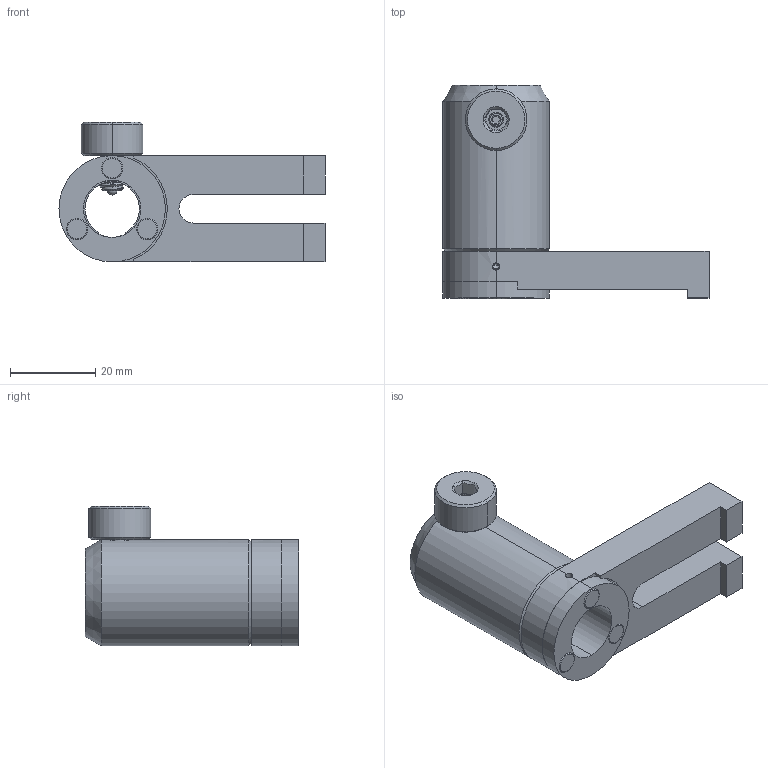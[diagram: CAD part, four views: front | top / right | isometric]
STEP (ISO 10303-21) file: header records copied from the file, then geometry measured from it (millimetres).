
FILE_DESCRIPTION((''),'2;1');
FILE_NAME('CA50-XC_ASM','2020-12-21T',('Administrator'),(''),'CREO PARAMETRIC BY PTC INC, 2015290','CREO PARAMETRIC BY PTC INC, 2015290','');
FILE_SCHEMA(('CONFIG_CONTROL_DESIGN'));
Length unit declared in the file: millimetre
Products named in the file (9): SPRING_3X6; M6_SCREW_2; M4X3_HS_2; CAXX-XC_A2; MAGNET_5X3; CA50-XC_A1; M6_SCREW_1; CAXX-XC_A3; CA50-XC_ASM
Assembly tree (10 placements, depth 2):
  CA50-XC_ASM
    SPRING_3X6
    M6_SCREW_2
    M4X3_HS_2
    CAXX-XC_A2
    MAGNET_5X3  x3
    CA50-XC_A1
    M6_SCREW_1
    CAXX-XC_A3
Bounding box: 62.5 x 50.18 x 32.87 mm (x, y, z)
Volume: 25297.8 mm3; surface area: 14279.2 mm2
Topology: 10 solids, 10 shells, 276 faces, 686 edges, 438 vertices
Faces by surface type: cylinder 124, plane 77, bspline 35, cone 26, torus 12, sphere 2
Entity records: 25600 total; most frequent: CARTESIAN_POINT 19532, ORIENTED_EDGE 1304, DIRECTION 1075, EDGE_CURVE 652, VERTEX_POINT 422, AXIS2_PLACEMENT_3D 395, EDGE_LOOP 288, VECTOR 285
